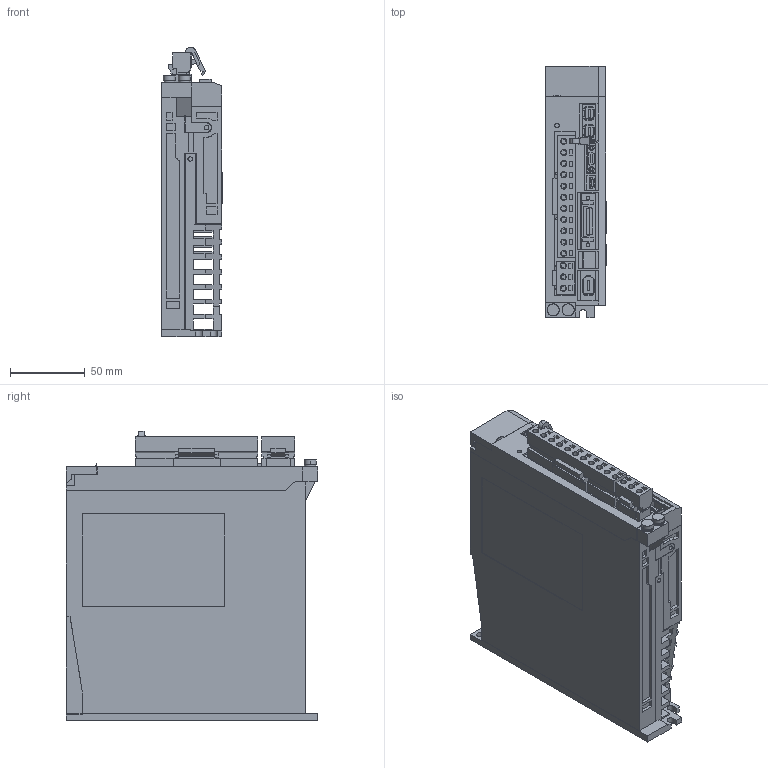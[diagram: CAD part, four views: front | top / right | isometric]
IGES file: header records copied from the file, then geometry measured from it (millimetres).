
Start section: SolidWorks IGES file using analytic representation for surfaces
Global section: file name: D:\YASKAWA\sgd7s_2r8a20a.IGS; native system: SolidWorks 2006 by SolidWorks Corporation; preprocessor: SolidWorks 2006 by SolidWorks Corporation; author: yamanouchi; date: 140306.133033; units: millimetre
Bounding box: 40.5 x 168 x 193.84 mm (x, y, z)
Surface area: 169430.9 mm2 (no closed solid volume)
Topology: 0 solids, 0 shells, 1806 faces, 13255 edges, 13255 vertices
Faces by surface type: bspline 1657, revolution 149
